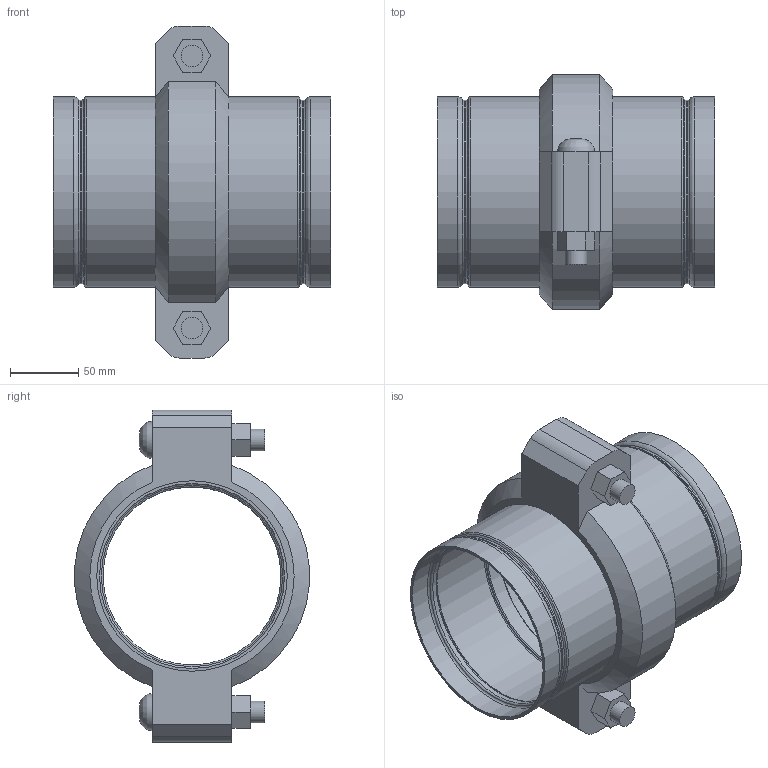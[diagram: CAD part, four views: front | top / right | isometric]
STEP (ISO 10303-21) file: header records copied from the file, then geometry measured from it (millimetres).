
FILE_DESCRIPTION(/* description */ ('VIC STRENGTHIN 100 EXPANSION JOINT 1 COUPLING COMPRESSED STYLE E155 (ST1)','CAx-IF Rec.Pracs.---Representation and Presentation of Product Manufacturing Information (PMI)---4.0---2014-10-13'),/* implementation_level */ '2;1');
FILE_NAME(/* name */ 'C:\Users\Vjadhav\AppData\Roaming\Autodesk\ApplicationPlugins\Victaulic.Temp\A42\Victaulic_SS-StrengThin 100_Expansion Joint_Compressed_1 Coupling_Style E155 (ST1)_05.0 (139.7) (125).stp',/* time_stamp */ '2021-07-23T12:24:20+06:00',/* author */ ('kkamble'),/* organization */ ('Victaulic'),/* preprocessor_version */ 'ST-DEVELOPER v17.2',/* originating_system */ 'Autodesk Inventor 2019',/* authorisation */ '');
FILE_SCHEMA (('AP242_MANAGED_MODEL_BASED_3D_ENGINEERING_MIM_LF { 1 0 10303 442 1 1 4 }'));
Length unit declared in the file: inch
Products named in the file (3): E155-05.0 (139.7); E494G-05.0 (139.7); 075-05.0 (139.7)
Assembly tree (3 placements, depth 2):
  E155-05.0 (139.7)
    E494G-05.0 (139.7)  x2
    075-05.0 (139.7)
Bounding box: 203.96 x 172.14 x 243.59 mm (x, y, z)
Volume: 817781.3 mm3; surface area: 282690.2 mm2
Topology: 3 solids, 5 shells, 121 faces, 349 edges, 252 vertices
Faces by surface type: plane 46, cylinder 33, torus 32, cone 8, bspline 2
Full cylindrical faces by diameter (mm): 15.875 x4, 17.424 x2, 130.505 x2, 131.47 x2, 134.518 x2, 135.484 x2, 135.687 x6, 139.7 x7
Entity records: 3147 total; most frequent: CARTESIAN_POINT 568, DIRECTION 551, ORIENTED_EDGE 476, EDGE_CURVE 238, AXIS2_PLACEMENT_3D 230, VERTEX_POINT 169, CIRCLE 139, EDGE_LOOP 105
